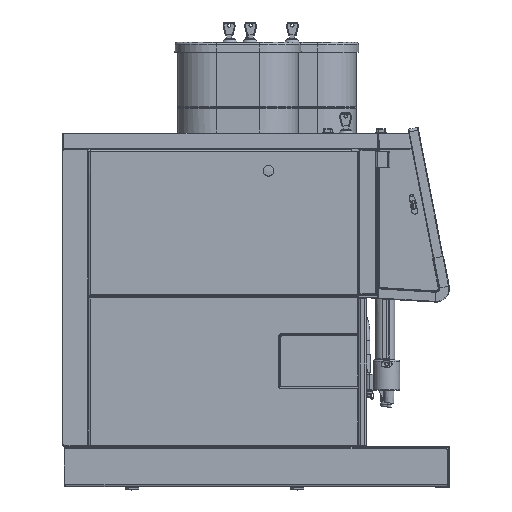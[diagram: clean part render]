
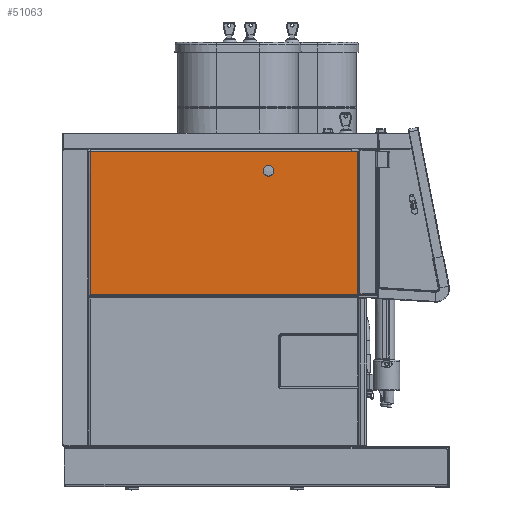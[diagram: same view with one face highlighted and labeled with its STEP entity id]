
A CAD part, left-side view. The second image highlights one B-rep face of the part: STEP entity #51063.
In plain terms, the highlighted planar face has unit normal (-1, 0, 0).
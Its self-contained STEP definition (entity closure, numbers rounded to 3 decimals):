
#1104=FACE_BOUND('',#15969,.T.);
#4394=LINE('',#86675,#8338);
#4419=LINE('',#86814,#8363);
#4436=LINE('',#86852,#8380);
#4458=LINE('',#86914,#8402);
#4499=LINE('',#87065,#8443);
#4508=LINE('',#87079,#8452);
#4622=LINE('',#87403,#8566);
#8338=VECTOR('',#65675,10.);
#8363=VECTOR('',#65740,10.);
#8380=VECTOR('',#65775,10.);
#8402=VECTOR('',#65835,10.);
#8443=VECTOR('',#65948,10.);
#8452=VECTOR('',#65967,10.);
#8566=VECTOR('',#66315,10.);
#10822=PLANE('',#55424);
#12882=FACE_OUTER_BOUND('',#15968,.T.);
#15968=EDGE_LOOP('',(#41403,#41404,#41405,#41406,#41407,#41408,#41409));
#15969=EDGE_LOOP('',(#41410));
#19102=CIRCLE('',#55417,8.);
#23546=VERTEX_POINT('',#86672);
#23547=VERTEX_POINT('',#86674);
#23576=VERTEX_POINT('',#86811);
#23577=VERTEX_POINT('',#86813);
#23578=VERTEX_POINT('',#86817);
#23589=VERTEX_POINT('',#86850);
#23652=VERTEX_POINT('',#87063);
#23743=VERTEX_POINT('',#87391);
#29746=EDGE_CURVE('',#23547,#23546,#4394,.T.);
#29788=EDGE_CURVE('',#23576,#23577,#4419,.T.);
#29808=EDGE_CURVE('',#23576,#23589,#4436,.T.);
#29839=EDGE_CURVE('',#23589,#23578,#4458,.T.);
#29901=EDGE_CURVE('',#23652,#23578,#4499,.T.);
#29910=EDGE_CURVE('',#23652,#23547,#4508,.T.);
#30065=EDGE_CURVE('',#23743,#23743,#19102,.T.);
#30070=EDGE_CURVE('',#23546,#23577,#4622,.T.);
#41403=ORIENTED_EDGE('',*,*,#29910,.T.);
#41404=ORIENTED_EDGE('',*,*,#29746,.T.);
#41405=ORIENTED_EDGE('',*,*,#30070,.T.);
#41406=ORIENTED_EDGE('',*,*,#29788,.F.);
#41407=ORIENTED_EDGE('',*,*,#29808,.T.);
#41408=ORIENTED_EDGE('',*,*,#29839,.T.);
#41409=ORIENTED_EDGE('',*,*,#29901,.F.);
#41410=ORIENTED_EDGE('',*,*,#30065,.T.);
#51063=ADVANCED_FACE('',(#12882,#1104),#10822,.F.);
#55417=AXIS2_PLACEMENT_3D('',#87393,#66299,#66300);
#55424=AXIS2_PLACEMENT_3D('',#87402,#66313,#66314);
#65675=DIRECTION('',(0.,0.,1.));
#65740=DIRECTION('',(0.,0.,-1.));
#65775=DIRECTION('',(0.,1.,0.));
#65835=DIRECTION('',(0.,1.,0.));
#65948=DIRECTION('',(0.,0.,1.));
#65967=DIRECTION('',(0.,-1.,0.));
#66299=DIRECTION('center_axis',(1.,0.,0.));
#66300=DIRECTION('ref_axis',(0.,-1.,0.));
#66313=DIRECTION('center_axis',(1.,0.,0.));
#66314=DIRECTION('ref_axis',(0.,0.,-1.));
#66315=DIRECTION('',(0.,-1.,0.));
#86672=CARTESIAN_POINT('',(-162.5,136.5,290.4));
#86674=CARTESIAN_POINT('',(-162.5,136.5,289.336));
#86675=CARTESIAN_POINT('',(-162.5,136.5,268.982));
#86811=CARTESIAN_POINT('',(-162.5,135.95,502.8));
#86813=CARTESIAN_POINT('',(-162.5,135.95,290.4));
#86814=CARTESIAN_POINT('',(-162.5,135.95,290.4));
#86817=CARTESIAN_POINT('',(-162.5,533.,502.8));
#86850=CARTESIAN_POINT('',(-162.5,144.9,502.8));
#86852=CARTESIAN_POINT('',(-162.5,208.112,502.8));
#86914=CARTESIAN_POINT('',(-162.5,533.,502.8));
#87063=CARTESIAN_POINT('',(-162.5,533.,289.336));
#87065=CARTESIAN_POINT('',(-162.5,533.,504.8));
#87079=CARTESIAN_POINT('',(-162.5,136.5,289.336));
#87391=CARTESIAN_POINT('',(-162.5,260.4,473.6));
#87393=CARTESIAN_POINT('Origin',(-162.5,268.4,473.6));
#87402=CARTESIAN_POINT('Origin',(-162.5,281.538,254.064));
#87403=CARTESIAN_POINT('',(-162.5,209.019,290.4));
